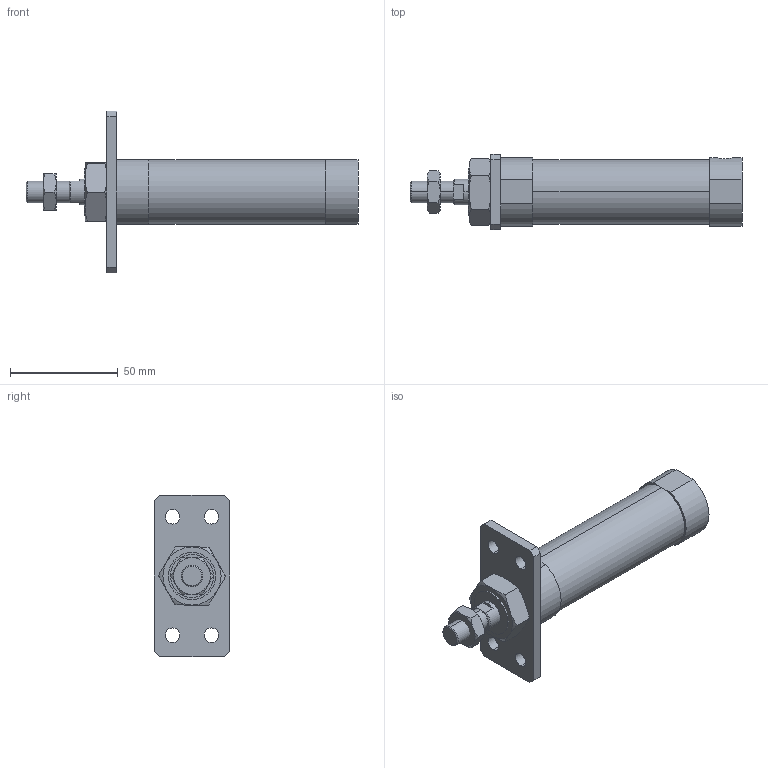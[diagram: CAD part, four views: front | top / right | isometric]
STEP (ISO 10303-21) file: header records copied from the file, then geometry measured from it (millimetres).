
FILE_DESCRIPTION (( 'STEP AP203' ), '1' );
FILE_NAME ('JGND1-25-25-A.STEP', '2016-08-04T02:15:50', ( '' ), ( '' ), 'SwSTEP 2.0', 'SolidWorks 2014', '' );
FILE_SCHEMA (( 'CONFIG_CONTROL_DESIGN' ));
Length unit declared in the file: millimetre
Products named in the file (5): J#2-25-A; JGND1-25-25-A; J#1-25-25(P)
Assembly tree (4 placements, depth 2):
  JGND1-25-25-A
    J#1-25-25(P)
    (unnamed)
    (unnamed)
    J#2-25-A
Bounding box: 154 x 35 x 75 mm (x, y, z)
Volume: 101843.1 mm3; surface area: 23799.3 mm2
Topology: 4 solids, 4 shells, 105 faces, 242 edges, 147 vertices
Faces by surface type: plane 45, cylinder 30, torus 24, cone 6
Entity records: 3749 total; most frequent: CARTESIAN_POINT 873, DIRECTION 500, ORIENTED_EDGE 480, EDGE_CURVE 240, AXIS2_PLACEMENT_3D 202, VERTEX_POINT 147, EDGE_LOOP 123, ADVANCED_FACE 105
